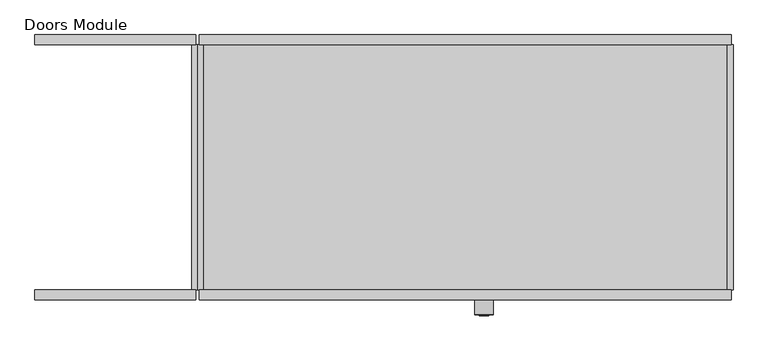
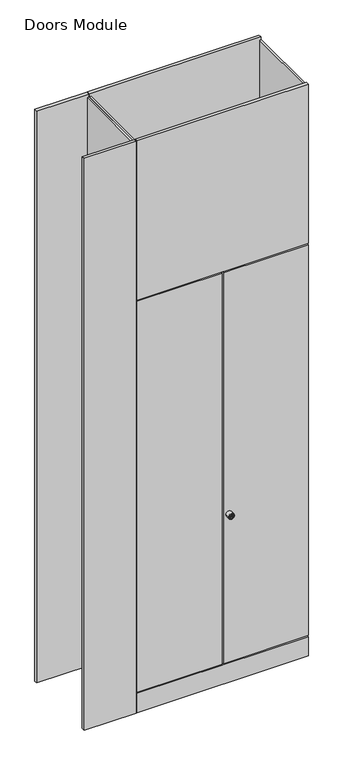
"""IFC4 building model written with IfcOpenShell, lengths in millimetres: furniture geometry, Furniture_Storage_Spacestor_SignatureStoragewall : Doors Module."""

from ifc_helpers import new_model, si_unit, point, frame, origin, origin_with_axes, place, context, project, spatial, polyline, circle_curve, ellipse_curve, trimmed, outline, extrude, source, transform, mapped, element, save
from ifc_brep_helpers import plane_surface, cylinder_surface, revolved_surface, advanced_brep


def doors_module_adceae11(model_context):
    return source(origin(), model_context, "Body", "SolidModel", [
        extrude(outline(polyline([(996.5, 459.0), (3.5, 459.0), (3.5, 477.0), (996.5, 477.0), (996.5, 459.0)])), origin_with_axes(), (0.0, 0.0, 1.0), 3500.0),
        extrude(outline(polyline([(996.5, -18.0), (3.5, -18.0), (3.5, 0.0), (996.5, 0.0), (996.5, -18.0)])), origin_with_axes(), (0.0, 0.0, 1.0), 118.0),
        extrude(outline(polyline([(996.5, -18.0), (3.5, -18.0), (3.5, 0.0), (996.5, 0.0), (996.5, -18.0)])), frame((0.0, 0.0, 2525.0), z_axis=(0.0, 0.0, 1.0), x_axis=(1.0, 0.0, 0.0)), (0.0, 0.0, 1.0), 975.0),
        extrude(outline(polyline([(-3.5, -18.0), (-303.5, -18.0), (-303.5, 0.0), (-3.5, 0.0), (-3.5, -18.0)])), origin_with_axes(), (0.0, 0.0, 1.0), 3500.0),
        extrude(outline(polyline([(-3.5, 459.0), (-303.5, 459.0), (-303.5, 477.0), (-3.5, 477.0), (-3.5, 459.0)])), origin_with_axes(), (0.0, 0.0, 1.0), 3500.0),
        extrude(outline(polyline([(0.0, 0.0), (-11.0, 0.0), (-11.0, 459.0), (0.0, 459.0), (0.0, 0.0)])), origin_with_axes(), (0.0, 0.0, 1.0), 3482.0),
        extrude(outline(polyline([(1000.0, 0.0), (989.0, 0.0), (989.0, 459.0), (1000.0, 459.0), (1000.0, 0.0)])), origin_with_axes(), (0.0, 0.0, 1.0), 3482.0),
        extrude(outline(polyline([(11.0, 0.0), (0.0, 0.0), (0.0, 459.0), (11.0, 459.0), (11.0, 0.0)])), origin_with_axes(), (0.0, 0.0, 1.0), 3482.0),
        extrude(outline(polyline([(989.0, 0.0), (11.0, 0.0), (11.0, 459.0), (989.0, 459.0), (989.0, 0.0)])), frame((0.0, 0.0, 2023.0), z_axis=(0.0, 0.0, 1.0), x_axis=(1.0, 0.0, 0.0)), (0.0, 0.0, 1.0), 22.0),
        extrude(outline(polyline([(989.0, 0.0), (11.0, 0.0), (11.0, 459.0), (989.0, 459.0), (989.0, 0.0)])), frame((0.0, 0.0, 1639.0), z_axis=(0.0, 0.0, 1.0), x_axis=(1.0, 0.0, 0.0)), (0.0, 0.0, 1.0), 22.0),
        extrude(outline(polyline([(989.0, 0.0), (11.0, 0.0), (11.0, 459.0), (989.0, 459.0), (989.0, 0.0)])), frame((0.0, 0.0, 1255.0), z_axis=(0.0, 0.0, 1.0), x_axis=(1.0, 0.0, 0.0)), (0.0, 0.0, 1.0), 22.0),
        extrude(outline(polyline([(989.0, 0.0), (11.0, 0.0), (11.0, 459.0), (989.0, 459.0), (989.0, 0.0)])), frame((0.0, 0.0, 871.0), z_axis=(0.0, 0.0, 1.0), x_axis=(1.0, 0.0, 0.0)), (0.0, 0.0, 1.0), 22.0),
        extrude(outline(polyline([(989.0, 0.0), (11.0, 0.0), (11.0, 459.0), (989.0, 459.0), (989.0, 0.0)])), frame((0.0, 0.0, 487.0), z_axis=(0.0, 0.0, 1.0), x_axis=(1.0, 0.0, 0.0)), (0.0, 0.0, 1.0), 22.0),
        advanced_brep(
        [(552.0, -45.3116344, 1032.0), (518.0, -45.3116344, 1032.0), (518.0, -18.0, 1032.0), (552.0, -18.0, 1032.0), (535.0, -18.0, 1032.0), (543.9747319, -46.3150077, 1032.0), (526.0252681, -46.3150077, 1032.0), (519.0033734, -46.3150077, 1032.0), (550.9966266, -46.3150077, 1032.0), (543.9747319, -47.4703043, 1032.0), (526.0252681, -47.4703043, 1032.0), (539.8245152, -47.4703043, 1032.0), (539.8245152, -47.4703043, 1030.6366562), (530.1754848, -47.4703043, 1030.6366562), (530.1754848, -47.4703043, 1032.0), (530.1754848, -47.4703043, 1033.3633438), (539.8245152, -47.4703043, 1033.3633438), (530.1754848, -27.8604291, 1030.6366562), (539.8245152, -27.8604291, 1030.6366562), (539.8245152, -27.8604291, 1033.3633438), (530.1754848, -27.8604291, 1033.3633438)],
        [
            (0, 1, circle_curve(frame((535.0, -45.3116344, 1032.0), z_axis=(0.0, 1.0, 0.0), x_axis=(-1.0, 0.0, 0.0)), 17.0)),
            (1, 2),
            (2, 3, circle_curve(frame((535.0, -18.0, 1032.0), z_axis=(0.0, -1.0, 0.0), x_axis=(-1.0, 0.0, 0.0)), 17.0)),
            (3, 0),
            (1, 0, circle_curve(frame((535.0, -45.3116344, 1032.0), z_axis=(0.0, 1.0, 0.0), x_axis=(-1.0, 0.0, 0.0)), 17.0)),
            (3, 2, circle_curve(frame((535.0, -18.0, 1032.0), z_axis=(0.0, -1.0, 0.0), x_axis=(-1.0, 0.0, 0.0)), 17.0)),
            (2, 4),
            (4, 3),
            (5, 6, circle_curve(frame((535.0, -46.3150077, 1032.0), z_axis=(0.0, 1.0, 0.0), x_axis=(-1.0, 0.0, 0.0)), 8.9747319)),
            (6, 7),
            (7, 8, circle_curve(frame((535.0, -46.3150077, 1032.0), z_axis=(0.0, -1.0, 0.0), x_axis=(-1.0, 0.0, 0.0)), 15.9966266)),
            (8, 5),
            (6, 5, circle_curve(frame((535.0, -46.3150077, 1032.0), z_axis=(0.0, 1.0, 0.0), x_axis=(-1.0, 0.0, 0.0)), 8.9747319)),
            (8, 7, circle_curve(frame((535.0, -46.3150077, 1032.0), z_axis=(0.0, -1.0, 0.0), x_axis=(-1.0, 0.0, 0.0)), 15.9966266)),
            (0, 8, circle_curve(frame((550.9966266, -45.3116344, 1032.0), z_axis=(0.0, 0.0, -1.0), x_axis=(1.0, 0.0, 0.0)), 1.0033734)),
            (7, 1, circle_curve(frame((519.0033734, -45.3116344, 1032.0), z_axis=(0.0, 0.0, -1.0), x_axis=(-1.0, 0.0, 0.0)), 1.0033734)),
            (5, 9),
            (9, 10, circle_curve(frame((535.0, -47.4703043, 1032.0), z_axis=(0.0, 1.0, 0.0), x_axis=(-1.0, 0.0, 0.0)), 8.9747319)),
            (10, 6),
            (10, 9, circle_curve(frame((535.0, -47.4703043, 1032.0), z_axis=(0.0, 1.0, 0.0), x_axis=(-1.0, 0.0, 0.0)), 8.9747319)),
            (9, 11),
            (11, 12),
            (12, 13),
            (13, 14),
            (14, 10),
            (14, 15),
            (15, 16),
            (16, 11),
            (17, 18),
            (18, 19),
            (19, 20),
            (20, 17),
            (17, 13),
            (12, 18),
            (16, 19),
            (15, 20),
        ],
        [
            cylinder_surface(frame((535.0, -2627.0581012, 1032.0), z_axis=(0.0, -1.0, 0.0), x_axis=(-1.0, 0.0, 0.0)), 17.0),
            plane_surface(frame((535.0, -18.0, 1032.0), z_axis=(0.0, 1.0, 0.0), x_axis=(-1.0, 0.0, 0.0))),
            plane_surface(frame((535.0, -46.3150077, 1032.0), z_axis=(0.0, -1.0, 0.0), x_axis=(-1.0, 0.0, 0.0))),
            revolved_surface(trimmed(ellipse_curve(frame((519.0033734, -45.3116344, 1032.0), z_axis=(0.0, 0.0, 1.0), x_axis=(-1.0, 0.0, 0.0)), 1.0033734, 1.0033734), [point((518.0, -45.3116344, 1032.0))], [point((519.0033734, -46.3150077, 1032.0))], True, "CARTESIAN"), (535.0, -2627.0581012, 1032.0), (0.0, -1.0, 0.0)),
            cylinder_surface(frame((535.0, -2627.0581012, 1032.0), z_axis=(0.0, -1.0, 0.0), x_axis=(-1.0, 0.0, 0.0)), 8.9747319),
            plane_surface(frame((535.0, -47.4703043, 1032.0), z_axis=(0.0, -1.0, 0.0), x_axis=(-1.0, 0.0, 0.0))),
            plane_surface(frame((539.4565249, -27.8604291, 1030.6366562), z_axis=(0.0, -1.0, 0.0), x_axis=(-1.0, 0.0, 0.0))),
            plane_surface(frame((530.1754848, -49.2046383, 1030.6366562), z_axis=(0.0, 0.0, 1.0), x_axis=(0.0, 1.0, 0.0))),
            plane_surface(frame((539.8245152, -49.2046383, 1030.6366562), z_axis=(-1.0, 0.0, 0.0), x_axis=(0.0, 1.0, 0.0))),
            plane_surface(frame((539.8245152, -49.2046383, 1033.3633438), z_axis=(0.0, 0.0, -1.0), x_axis=(0.0, 1.0, 0.0))),
            plane_surface(frame((530.1754848, -49.2046383, 1033.3633438), z_axis=(1.0, 0.0, 0.0), x_axis=(0.0, 1.0, 0.0))),
        ],
        [
            (0, [[1, 2, 3, 4]]),
            (0, [[-2, 5, -4, 6]]),
            (1, [[-3, 7, 8]]),
            (1, [[-6, -8, -7]]),
            (2, [[9, 10, 11, 12]]),
            (2, [[-10, 13, -12, 14]]),
            (3, [[-1, 15, -11, 16]]),
            (3, [[-5, -16, -14, -15]]),
            (4, [[-9, 17, 18, 19]]),
            (4, [[-13, -19, 20, -17]]),
            (5, [[-18, 21, 22, 23, 24, 25]]),
            (5, [[-20, -25, 26, 27, 28, -21]]),
            (6, [[29, 30, 31, 32]]),
            (7, [[-29, 33, -23, 34]]),
            (8, [[-30, -34, -22, -28, 35]]),
            (9, [[-31, -35, -27, 36]]),
            (10, [[-32, -36, -26, -24, -33]]),
        ],
    ),
        extrude(outline(polyline([(3.5, -18.0), (3.5, 0.0), (496.5, 0.0), (496.5, -18.0), (3.5, -18.0)])), frame((0.0, 0.0, 125.0), z_axis=(0.0, 0.0, 1.0), x_axis=(1.0, 0.0, 0.0)), (0.0, 0.0, 1.0), 2393.0),
        extrude(outline(polyline([(996.5, -18.0), (503.5, -18.0), (503.5, 0.0), (996.5, 0.0), (996.5, -18.0)])), frame((0.0, 0.0, 125.0), z_axis=(0.0, 0.0, 1.0), x_axis=(1.0, 0.0, 0.0)), (0.0, 0.0, 1.0), 2393.0),
        extrude(outline(polyline([(989.0, 0.0), (11.0, 0.0), (11.0, 459.0), (989.0, 459.0), (989.0, 0.0)])), frame((0.0, 0.0, 110.5), z_axis=(0.0, 0.0, 1.0), x_axis=(1.0, 0.0, 0.0)), (0.0, 0.0, 1.0), 22.0),
        extrude(outline(polyline([(989.0, 0.0), (11.0, 0.0), (11.0, 459.0), (989.0, 459.0), (989.0, 0.0)])), frame((0.0, 0.0, 2510.0), z_axis=(0.0, 0.0, 1.0), x_axis=(1.0, 0.0, 0.0)), (0.0, 0.0, 1.0), 22.0),
    ])


if __name__ == "__main__":
    model = new_model("IFC4")
    model_context = context("Model", 3, world=origin())
    ifc_project = project(units=[si_unit("LENGTHUNIT", "METRE", prefix="MILLI")], contexts=[model_context])
    site = spatial("IfcSite", under=ifc_project)
    building = spatial("IfcBuilding", under=site)
    placement = place(None, origin())
    doors_module_shape = doors_module_adceae11(model_context)
    element("IfcFurniture", 1, ObjectType="Furniture_Storage_Spacestor_SignatureStoragewall : Doors Module", at=placement, inside=building, context=model_context, shape_type="MappedRepresentation", body=[
        mapped(doors_module_shape, transform((0.0, 0.0, 0.0), x_axis=(1.0, 0.0, 0.0), y_axis=(0.0, 1.0, 0.0), z_axis=(0.0, 0.0, 1.0))),
    ])
    save(model, "model.ifc")
